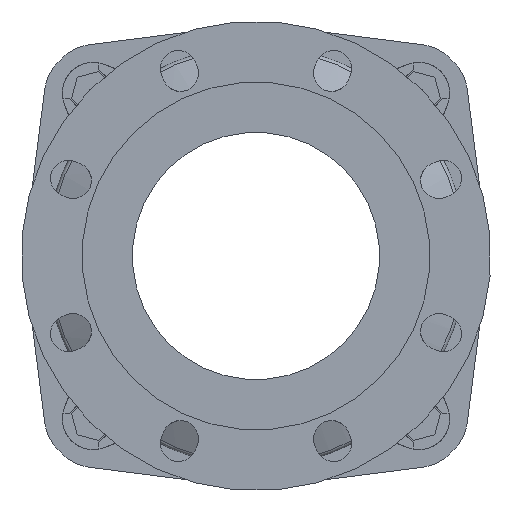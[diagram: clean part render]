
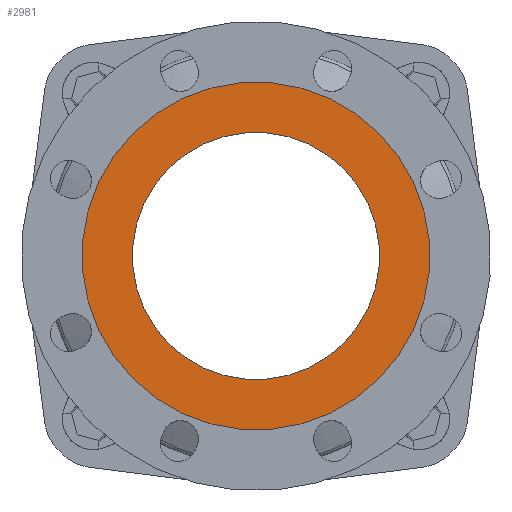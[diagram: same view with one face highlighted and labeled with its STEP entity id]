
A CAD part, front view. The second image highlights one B-rep face of the part: STEP entity #2981.
In plain terms, the highlighted planar face has unit normal (0, -1, 0).
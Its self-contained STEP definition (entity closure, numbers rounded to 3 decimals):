
#92=CARTESIAN_POINT('',(0.,-150.,0.));
#93=DIRECTION('',(0.,-1.,0.));
#94=DIRECTION('',(0.966,0.,-0.259));
#95=AXIS2_PLACEMENT_3D('',#92,#93,#94);
#97=CARTESIAN_POINT('',(0.,-150.,0.));
#98=DIRECTION('',(0.,1.,0.));
#99=DIRECTION('',(0.966,0.,-0.259));
#100=AXIS2_PLACEMENT_3D('',#97,#98,#99);
#106=CARTESIAN_POINT('',(0.,-150.,0.));
#107=DIRECTION('',(0.,-1.,0.));
#108=DIRECTION('',(0.966,0.,-0.259));
#109=AXIS2_PLACEMENT_3D('',#106,#107,#108);
#120=CARTESIAN_POINT('',(0.,-150.,0.));
#121=DIRECTION('',(0.,1.,0.));
#122=DIRECTION('',(0.966,0.,-0.259));
#123=AXIS2_PLACEMENT_3D('',#120,#121,#122);
#2368=CARTESIAN_POINT('',(72.444,-150.,-19.411));
#2370=VERTEX_POINT('',#2368);
#2380=CARTESIAN_POINT('',(101.905,-150.,-27.305));
#2382=VERTEX_POINT('',#2380);
#2400=CARTESIAN_POINT('',(19.411,-150.,-72.444));
#2402=VERTEX_POINT('',#2400);
#2412=CARTESIAN_POINT('',(27.305,-150.,-101.905));
#2414=VERTEX_POINT('',#2412);
#2966=CARTESIAN_POINT('',(0.,-150.,0.));
#2967=DIRECTION('',(0.,1.,0.));
#2968=DIRECTION('',(-0.259,0.,0.966));
#2969=AXIS2_PLACEMENT_3D('',#2966,#2967,#2968);
#2970=PLANE('',#2969);
#2972=ORIENTED_EDGE('',*,*,#2971,.F.);
#2974=ORIENTED_EDGE('',*,*,#2973,.T.);
#2975=EDGE_LOOP('',(#2972,#2974));
#2976=FACE_OUTER_BOUND('',#2975,.F.);
#2977=ORIENTED_EDGE('',*,*,#2948,.T.);
#2978=ORIENTED_EDGE('',*,*,#2959,.F.);
#2979=EDGE_LOOP('',(#2977,#2978));
#2980=FACE_BOUND('',#2979,.F.);
#2981=ADVANCED_FACE('',(#2976,#2980),#2970,.F.);
#96=CIRCLE('',#95,75.);
#101=CIRCLE('',#100,75.);
#110=CIRCLE('',#109,105.5);
#124=CIRCLE('',#123,105.5);
#2948=EDGE_CURVE('',#2370,#2402,#96,.T.);
#2959=EDGE_CURVE('',#2370,#2402,#101,.T.);
#2971=EDGE_CURVE('',#2382,#2414,#110,.T.);
#2973=EDGE_CURVE('',#2382,#2414,#124,.T.);
